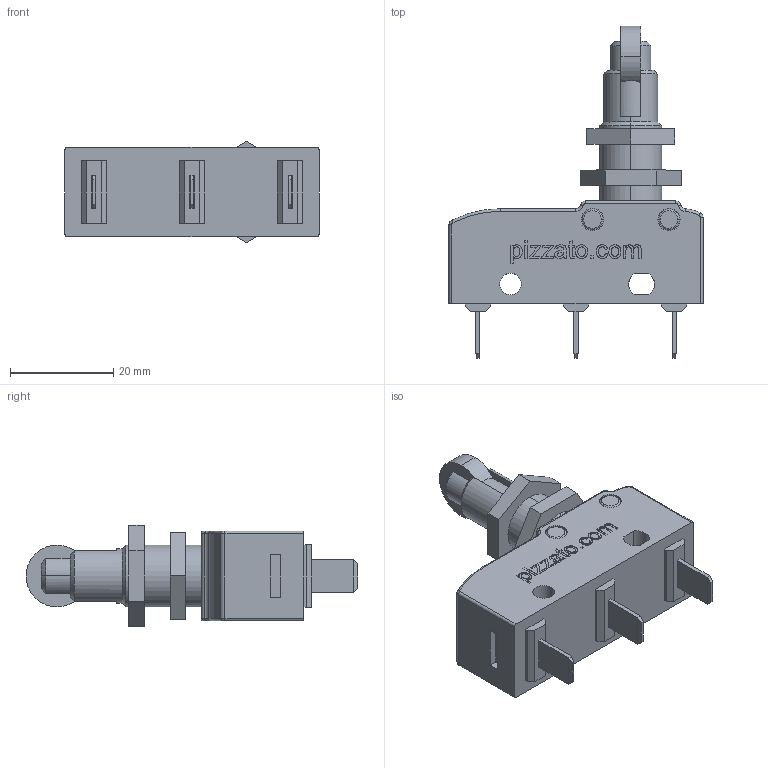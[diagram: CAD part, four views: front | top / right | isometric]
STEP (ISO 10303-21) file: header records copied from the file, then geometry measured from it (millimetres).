
FILE_DESCRIPTION (( 'STEP AP203' ), '1' );
FILE_NAME ('Pizzato_MK_HxxD17.STEP', '2009-02-13T16:07:10', ( 'mario' ), ( '' ), 'SwSTEP 2.0', 'SolidWorks 2009', '' );
FILE_SCHEMA (( 'CONFIG_CONTROL_DESIGN' ));
Length unit declared in the file: millimetre
Products named in the file (5): Pizzato_Custodia_MK_MKH_06-17; Pizzato_MK_HxxD17; Pizzato_Supporto MK15; Pizzato_Pistoncino_MK15; Pizzato_Dado_35_35
Assembly tree (5 placements, depth 2):
  Pizzato_MK_HxxD17
    Pizzato_Dado_35_35  x2
    Pizzato_Custodia_MK_MKH_06-17
    Pizzato_Pistoncino_MK15
    Pizzato_Supporto MK15
Bounding box: 49.2 x 64.3 x 19.63 mm (x, y, z)
Volume: 19247.9 mm3; surface area: 8794.5 mm2
Topology: 5 solids, 5 shells, 485 faces, 1232 edges, 805 vertices
Faces by surface type: plane 302, cylinder 81, bspline 69, torus 26, cone 7
Entity records: 18180 total; most frequent: CARTESIAN_POINT 6427, ORIENTED_EDGE 2416, DIRECTION 2107, EDGE_CURVE 1208, VECTOR 841, LINE 841, VERTEX_POINT 789, AXIS2_PLACEMENT_3D 633
